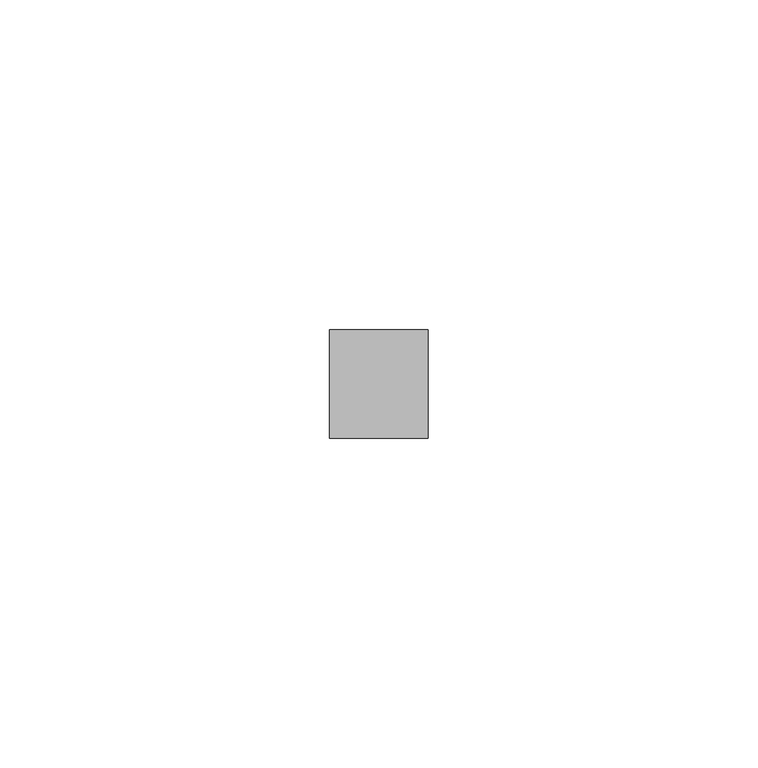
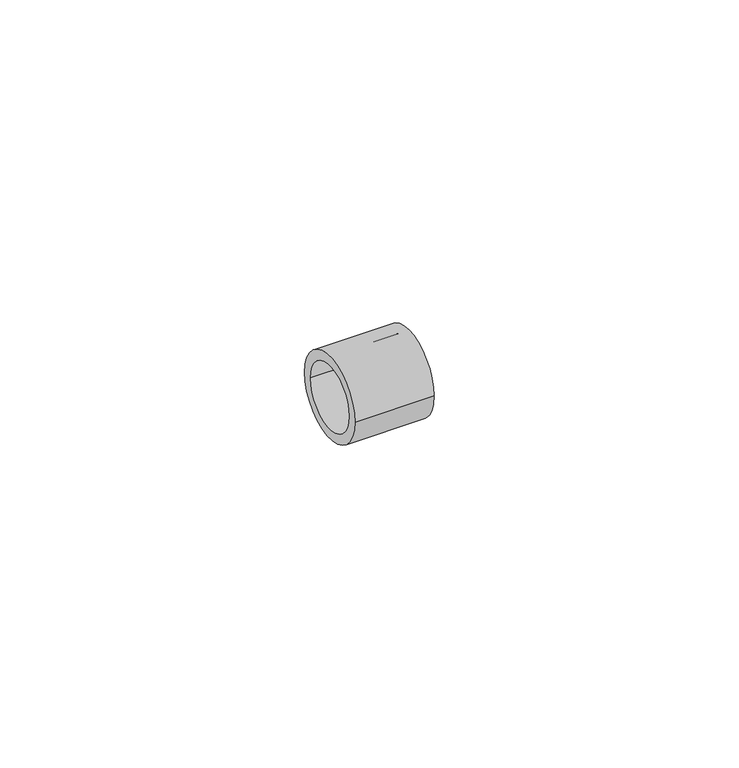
"""IFC4 building model written with IfcOpenShell, lengths in millimetres: pipe fitting geometry, RAUTITAN_Sleeve SDR 7,4 : RTI S SDR 7,4."""

from ifc_helpers import new_model, si_unit, point, frame, origin, origin_2d, place, context, project, spatial, circle_curve, trimmed, segment, composite_curve, outline, extrude, source, transform, mapped, element, save


def pipe_fitting_709f2c42(model_context):
    return source(origin(), model_context, "Body", "SweptSolid", [
        extrude(outline(composite_curve([segment(trimmed(circle_curve(origin_2d(), 8.25), [point((-8.25, 0.0))], [point((8.25, 0.0))], False, "CARTESIAN"), True, "CONTINUOUS"), segment(trimmed(circle_curve(origin_2d(), 8.25), [point((8.25, 0.0))], [point((-8.25, 0.0))], False, "CARTESIAN"), True, "CONTINUOUS")], self_intersect=False), holes=[composite_curve([segment(trimmed(circle_curve(origin_2d(), 6.35), [point((-6.35, 0.0))], [point((6.35, 0.0))], True, "CARTESIAN"), True, "CONTINUOUS"), segment(trimmed(circle_curve(origin_2d(), 6.35), [point((6.35, 0.0))], [point((-6.35, 0.0))], True, "CARTESIAN"), True, "CONTINUOUS")], self_intersect=False)]), frame((0.0, 0.0, 0.0), z_axis=(1.0, 0.0, 0.0), x_axis=(0.0, 1.0, 0.0)), (0.0, 0.0, 1.0), 15.0),
    ])


if __name__ == "__main__":
    model = new_model("IFC4")
    model_context = context("Model", 3, world=origin())
    ifc_project = project(units=[si_unit("LENGTHUNIT", "METRE", prefix="MILLI")], contexts=[model_context])
    site = spatial("IfcSite", under=ifc_project)
    building = spatial("IfcBuilding", under=site)
    placement = place(None, origin())
    pipe_fitting_shape = pipe_fitting_709f2c42(model_context)
    element("IfcPipeFitting", 1, ObjectType="RAUTITAN_Sleeve SDR 7,4 : RTI S SDR 7,4", at=placement, inside=building, context=model_context, shape_type="MappedRepresentation", body=[
        mapped(pipe_fitting_shape, transform((0.0, 0.0, 0.0), x_axis=(1.0, 0.0, 0.0), y_axis=(0.0, 1.0, 0.0), z_axis=(0.0, 0.0, 1.0))),
    ])
    save(model, "model.ifc")
